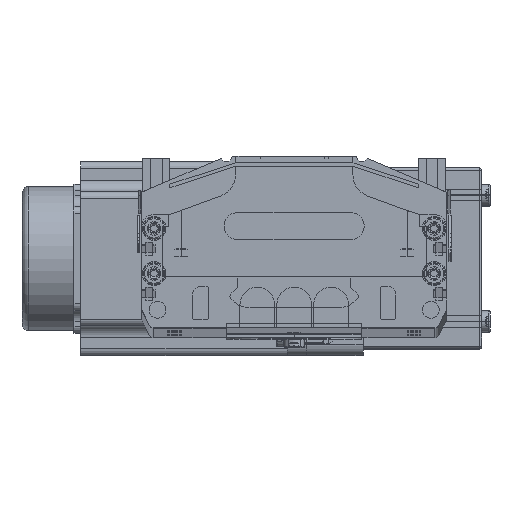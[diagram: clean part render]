
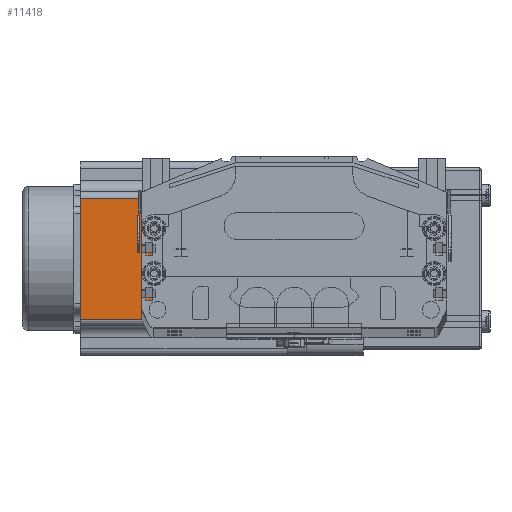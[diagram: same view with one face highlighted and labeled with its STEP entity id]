
A CAD part, top view. The second image highlights one B-rep face of the part: STEP entity #11418.
In plain terms, the highlighted planar face has unit normal (0, 0, 1) as drawn and (-1, 0, 0) by its records, which use the part's own axes.
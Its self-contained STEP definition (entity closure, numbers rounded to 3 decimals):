
#11354 = ORIENTED_EDGE ( 'NONE', *, *, #11486, .T. ) ;
#11355 = EDGE_CURVE ( 'NONE', #11365, #11371, #50114, .T. ) ;
#11365 = VERTEX_POINT ( 'NONE', #50779 ) ;
#11368 = ORIENTED_EDGE ( 'NONE', *, *, #11585, .T. ) ;
#11370 = ORIENTED_EDGE ( 'NONE', *, *, #11452, .T. ) ;
#11371 = VERTEX_POINT ( 'NONE', #50556 ) ;
#11372 = VERTEX_POINT ( 'NONE', #50553 ) ;
#11418 = ADVANCED_FACE ( 'NONE', ( #51273 ), #51008, .F. ) ;
#11452 = EDGE_CURVE ( 'NONE', #11487, #11372, #51016, .T. ) ;
#11486 = EDGE_CURVE ( 'NONE', #11372, #11371, #51363, .T. ) ;
#11487 = VERTEX_POINT ( 'NONE', #51445 ) ;
#11489 = EDGE_LOOP ( 'NONE', ( #11370, #11354, #11587, #11368 ) ) ;
#11585 = EDGE_CURVE ( 'NONE', #11365, #11487, #52160, .T. ) ;
#11587 = ORIENTED_EDGE ( 'NONE', *, *, #11355, .F. ) ;
#48312 = CARTESIAN_POINT ( 'NONE',  ( 0., 0., 91.5 ) ) ;
#48329 = DIRECTION ( 'NONE',  ( 0., -1., 0. ) ) ;
#48389 = VECTOR ( 'NONE', #48329, 1000. ) ;
#50114 = LINE ( 'NONE', #48312, #48389 ) ;
#50553 = CARTESIAN_POINT ( 'NONE',  ( 0., 16.16, 0. ) ) ;
#50556 = CARTESIAN_POINT ( 'NONE',  ( 0., 16.16, 91.5 ) ) ;
#50779 = CARTESIAN_POINT ( 'NONE',  ( 0., 69.74, 91.5 ) ) ;
#50951 = DIRECTION ( 'NONE',  ( 0., 0., -1. ) ) ;
#50952 = DIRECTION ( 'NONE',  ( 1., 0., 0. ) ) ;
#50953 = CARTESIAN_POINT ( 'NONE',  ( 0., 0., 91.5 ) ) ;
#51008 = PLANE ( 'NONE',  #51271 ) ;
#51016 = LINE ( 'NONE', #51029, #51224 ) ;
#51028 = DIRECTION ( 'NONE',  ( 0., -1., 0. ) ) ;
#51029 = CARTESIAN_POINT ( 'NONE',  ( 0., 0., 0. ) ) ;
#51224 = VECTOR ( 'NONE', #51028, 1000. ) ;
#51271 = AXIS2_PLACEMENT_3D ( 'NONE', #50953, #50952, #50951 ) ;
#51273 = FACE_OUTER_BOUND ( 'NONE', #11489, .T. ) ;
#51363 = LINE ( 'NONE', #51437, #51528 ) ;
#51437 = CARTESIAN_POINT ( 'NONE',  ( 0., 16.16, 91.5 ) ) ;
#51445 = CARTESIAN_POINT ( 'NONE',  ( 0., 69.74, 0. ) ) ;
#51526 = DIRECTION ( 'NONE',  ( 0., 0., 1. ) ) ;
#51528 = VECTOR ( 'NONE', #51526, 1000. ) ;
#51897 = CARTESIAN_POINT ( 'NONE',  ( 0., 69.74, 91.5 ) ) ;
#52123 = DIRECTION ( 'NONE',  ( 0., 0., -1. ) ) ;
#52124 = VECTOR ( 'NONE', #52123, 1000. ) ;
#52160 = LINE ( 'NONE', #51897, #52124 ) ;
